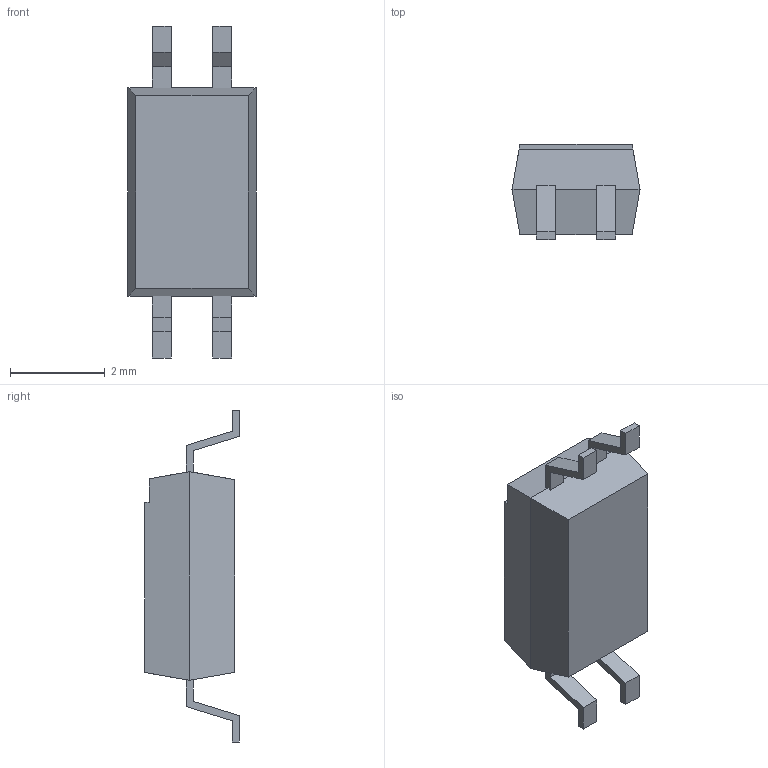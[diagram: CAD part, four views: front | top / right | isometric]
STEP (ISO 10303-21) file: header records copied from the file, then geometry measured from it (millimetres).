
FILE_DESCRIPTION (( 'STEP AP214' ), '1' );
FILE_NAME ('Renesas Electronics PS2806-1-F3-A.STEP', '2025-03-27T09:10:40', ( '' ), ( '' ), 'SwSTEP 2.0', 'SolidWorks 2023', '' );
FILE_SCHEMA (( 'AUTOMOTIVE_DESIGN' ));
Length unit declared in the file: millimetre
Products named in the file (1): Renesas Electronics PS2806-1-F3-A
Bounding box: 2.7 x 2 x 7 mm (x, y, z)
Volume: 20.8 mm3; surface area: 54.2 mm2
Topology: 1 solids, 1 shells, 48 faces, 134 edges, 88 vertices
Faces by surface type: plane 48
Entity records: 2057 total; most frequent: CARTESIAN_POINT 271, ORIENTED_EDGE 268, DIRECTION 232, VECTOR 134, LINE 134, EDGE_CURVE 134, VERTEX_POINT 88, UNCERTAINTY_MEASURE_WITH_UNIT 50
